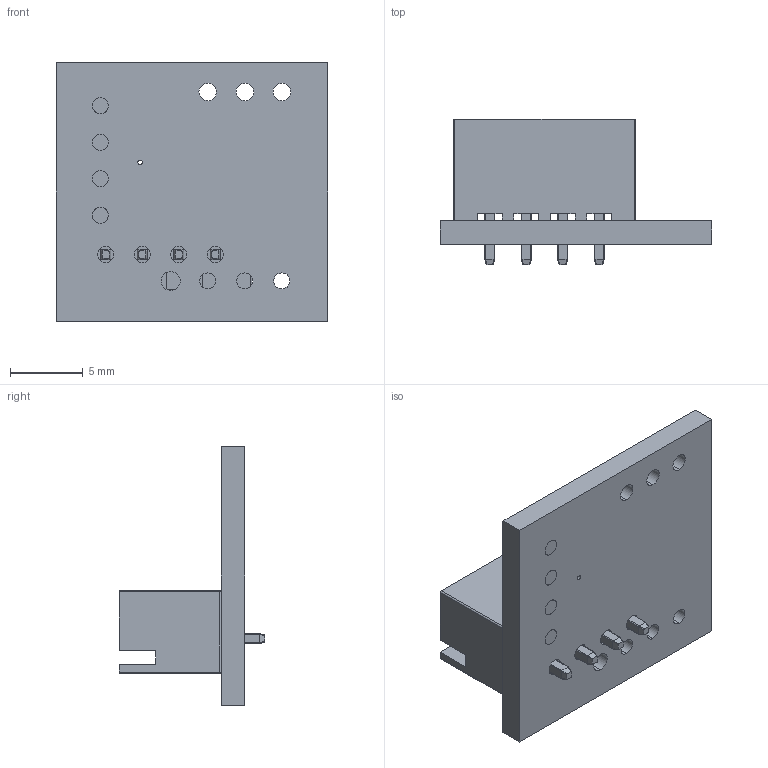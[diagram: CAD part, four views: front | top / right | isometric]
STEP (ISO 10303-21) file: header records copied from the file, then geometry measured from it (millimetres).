
FILE_DESCRIPTION(('Open CASCADE Model'),'2;1');
FILE_NAME('as5600-angle-encoder-custom-pcb.step','2026-11-14T15:02:33',( 'Author'),('Open CASCADE'),'Open CASCADE STEP processor 8.0', 'Open CASCADE 8.0','Unknown');
FILE_SCHEMA(('AP242_MANAGED_MODEL_BASED_3D_ENGINEERING_MIM_LF {1 0 10303 442 1 1 4 }' ));
Length unit declared in the file: millimetre
Products named in the file (1): AS5600 Angle Encoder Custom PCB
Bounding box: 18.64 x 10 x 17.75 mm (x, y, z)
Volume: 742 mm3; surface area: 1457.9 mm2
Topology: 2 solids, 2 shells, 298 faces, 807 edges, 540 vertices
Faces by surface type: plane 178, cylinder 106, bspline 14
Full cylindrical faces by diameter (mm): 1.1 x4
Entity records: 24838 total; most frequent: CARTESIAN_POINT 9770, DIRECTION 2535, LINE 1689, VECTOR 1689, ORIENTED_EDGE 1614, PCURVE 1614, DEFINITIONAL_REPRESENTATION 1614, EDGE_CURVE 807
